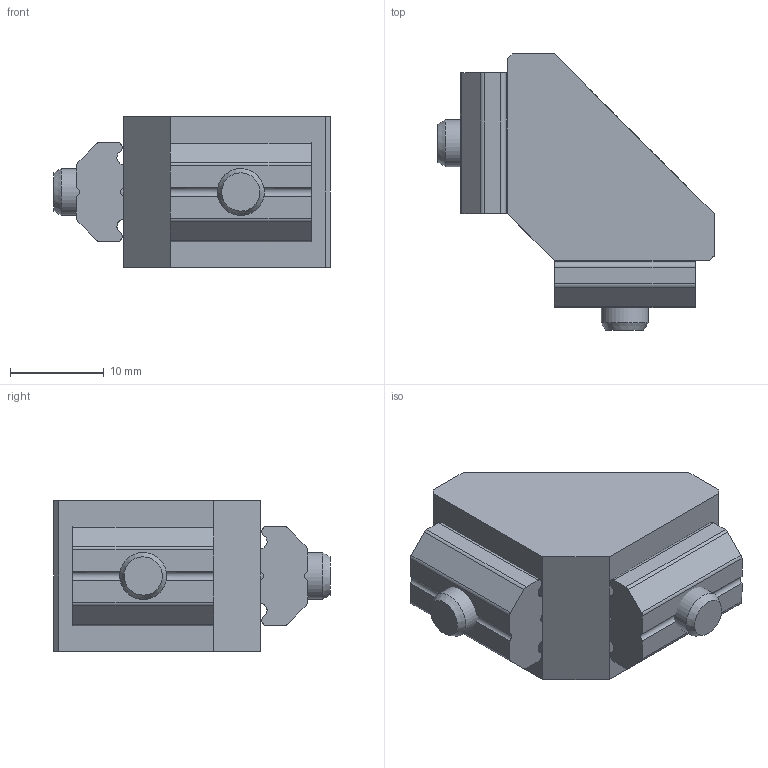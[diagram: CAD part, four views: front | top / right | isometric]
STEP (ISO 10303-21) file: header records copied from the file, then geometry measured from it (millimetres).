
FILE_DESCRIPTION(('STEP AP214'),'1');
FILE_NAME('CA.WIV.X.25.0.stp','2016-06-06T09:27:21',(' '),(' '),'Spatial InterOp 3D',' ',' ');
FILE_SCHEMA(('automotive_design'));
Length unit declared in the file: millimetre
Products named in the file (5): CA.GWP.5U; V-tcei M  5 x 10; R.5.SCH; WIV.25.0
Assembly tree (7 placements, depth 2):
  (unnamed)
    CA.GWP.5U  x2
    V-tcei M  5 x 10  x2
    R.5.SCH  x2
    WIV.25.0
Bounding box: 29.4 x 29.4 x 16 mm (x, y, z)
Volume: 5987.6 mm3; surface area: 4556.9 mm2
Topology: 5 solids, 7 shells, 486 faces, 1415 edges, 938 vertices
Faces by surface type: plane 440, cylinder 40, torus 4, cone 2
Full cylindrical faces by diameter (mm): 4.2 x2, 5 x2, 5.3 x2, 5.5 x2, 8.5 x2, 9 x2, 9.1 x2
Entity records: 10449 total; most frequent: CARTESIAN_POINT 1542, DIRECTION 1444, ORIENTED_EDGE 1428, EDGE_CURVE 714, AXIS2_PLACEMENT_3D 487, VERTEX_POINT 481, LINE 470, VECTOR 470
